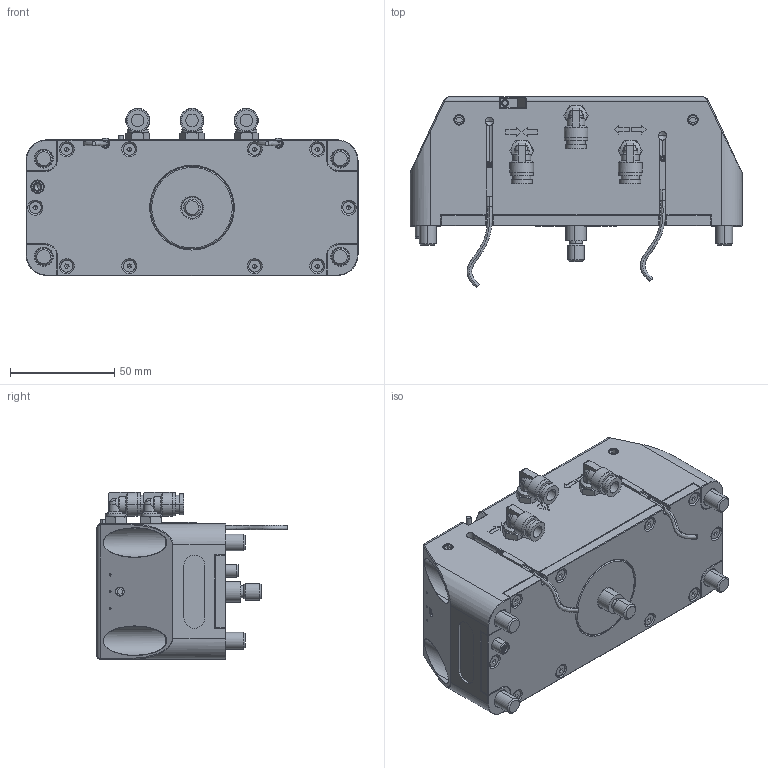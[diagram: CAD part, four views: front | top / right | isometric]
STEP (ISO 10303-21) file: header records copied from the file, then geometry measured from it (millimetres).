
FILE_DESCRIPTION (( 'STEP AP203' ), '1' );
FILE_NAME ('RME-20.STEP', '2023-05-04T03:18:54', ( '' ), ( '' ), 'SwSTEP 2.0', 'SolidWorks 2018', '' );
FILE_SCHEMA (( 'CONFIG_CONTROL_DESIGN' ));
Length unit declared in the file: millimetre
Products named in the file (8): JBAF12-P8.00-L8.0; RME-20; BALLUFF_BES_R04KC_PSC25F_EP00_3_GS49_5
Assembly tree (4 placements, depth 2):
  JBAF12-P8.00-L8.0
  JBAF12-P8.00-L8.0
  BALLUFF_BES_R04KC_PSC25F_EP00_3_GS49_5
  RME-20
  RME-20
    RME-20
    BALLUFF_BES_R04KC_PSC25F_EP00_3_GS49_5
    JBAF12-P8.00-L8.0  x2
Bounding box: 159 x 91.52 x 80 mm (x, y, z)
Volume: 560670.9 mm3; surface area: 73371.6 mm2
Topology: 11 solids, 51 shells, 1809 faces, 4267 edges, 2573 vertices
Faces by surface type: plane 710, cylinder 460, cone 450, bspline 71, torus 66, sphere 52
Entity records: 70050 total; most frequent: CARTESIAN_POINT 28172, DIRECTION 8851, ORIENTED_EDGE 8354, EDGE_CURVE 4177, AXIS2_PLACEMENT_3D 3374, VERTEX_POINT 2555, VECTOR 2103, LINE 2103
